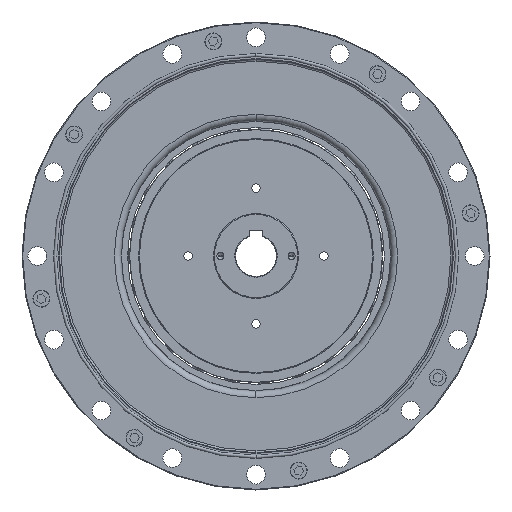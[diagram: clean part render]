
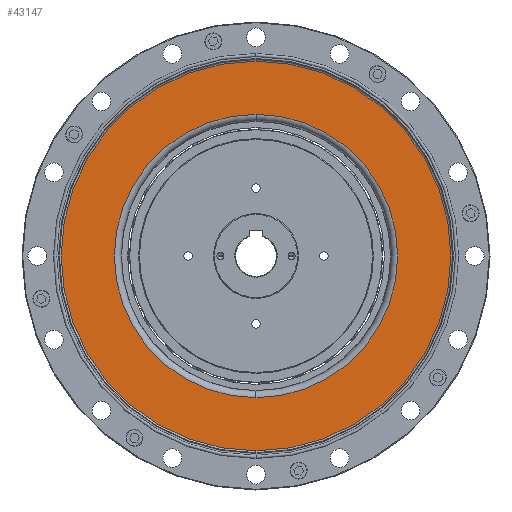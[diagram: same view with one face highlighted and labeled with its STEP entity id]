
A CAD part, left-side view. The second image highlights one B-rep face of the part: STEP entity #43147.
In plain terms, the highlighted planar face has unit normal (-1, 0, 0).
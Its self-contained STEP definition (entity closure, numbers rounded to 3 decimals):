
#13 = CARTESIAN_POINT ( 'NONE',  ( -86.21, 0., 0. ) ) ;
#439 = CIRCLE ( 'NONE', #22334, 114.899 ) ;
#2132 = CARTESIAN_POINT ( 'NONE',  ( -86.21, 0., 114.899 ) ) ;
#2998 = VERTEX_POINT ( 'NONE', #2132 ) ;
#3490 = DIRECTION ( 'NONE',  ( 0., 0., 1. ) ) ;
#4026 = CARTESIAN_POINT ( 'NONE',  ( -86.21, 0., 0. ) ) ;
#5439 = ORIENTED_EDGE ( 'NONE', *, *, #24966, .F. ) ;
#6875 = DIRECTION ( 'NONE',  ( -1., 0., 0. ) ) ;
#7510 = DIRECTION ( 'NONE',  ( 0., 0., -1. ) ) ;
#7534 = EDGE_LOOP ( 'NONE', ( #22704, #5439 ) ) ;
#7577 = CARTESIAN_POINT ( 'NONE',  ( -86.21, 0., -114.899 ) ) ;
#7917 = CIRCLE ( 'NONE', #33753, 114.899 ) ;
#11057 = CARTESIAN_POINT ( 'NONE',  ( -86.21, 0., 0. ) ) ;
#11395 = CIRCLE ( 'NONE', #22197, 83.556 ) ;
#14528 = DIRECTION ( 'NONE',  ( 0., 0., 1. ) ) ;
#16413 = EDGE_CURVE ( 'NONE', #25347, #2998, #7917, .T. ) ;
#16479 = CARTESIAN_POINT ( 'NONE',  ( -86.21, 0., -83.556 ) ) ;
#18660 = CARTESIAN_POINT ( 'NONE',  ( -86.21, 0., 0. ) ) ;
#20314 = AXIS2_PLACEMENT_3D ( 'NONE', #4026, #28293, #7510 ) ;
#20802 = CARTESIAN_POINT ( 'NONE',  ( -86.21, 0., 83.556 ) ) ;
#22162 = DIRECTION ( 'NONE',  ( 0., 0., 1. ) ) ;
#22197 = AXIS2_PLACEMENT_3D ( 'NONE', #18660, #42908, #22162 ) ;
#22334 = AXIS2_PLACEMENT_3D ( 'NONE', #11057, #35355, #14528 ) ;
#22581 = AXIS2_PLACEMENT_3D ( 'NONE', #13, #24266, #3490 ) ;
#22704 = ORIENTED_EDGE ( 'NONE', *, *, #23502, .F. ) ;
#23502 = EDGE_CURVE ( 'NONE', #41985, #44113, #24887, .T. ) ;
#23749 = ORIENTED_EDGE ( 'NONE', *, *, #38369, .T. ) ;
#24266 = DIRECTION ( 'NONE',  ( -1., 0., 0. ) ) ;
#24887 = CIRCLE ( 'NONE', #22581, 83.556 ) ;
#24966 = EDGE_CURVE ( 'NONE', #44113, #41985, #11395, .T. ) ;
#25347 = VERTEX_POINT ( 'NONE', #7577 ) ;
#25896 = FACE_BOUND ( 'NONE', #7534, .T. ) ;
#26314 = ORIENTED_EDGE ( 'NONE', *, *, #16413, .T. ) ;
#26555 = EDGE_LOOP ( 'NONE', ( #23749, #26314 ) ) ;
#27633 = CARTESIAN_POINT ( 'NONE',  ( -86.21, 0., 0. ) ) ;
#28149 = PLANE ( 'NONE',  #20314 ) ;
#28293 = DIRECTION ( 'NONE',  ( 1., 0., 0. ) ) ;
#31130 = DIRECTION ( 'NONE',  ( 0., 0., 1. ) ) ;
#33753 = AXIS2_PLACEMENT_3D ( 'NONE', #27633, #6875, #31130 ) ;
#35355 = DIRECTION ( 'NONE',  ( -1., 0., 0. ) ) ;
#38369 = EDGE_CURVE ( 'NONE', #2998, #25347, #439, .T. ) ;
#41985 = VERTEX_POINT ( 'NONE', #20802 ) ;
#42908 = DIRECTION ( 'NONE',  ( -1., 0., 0. ) ) ;
#43147 = ADVANCED_FACE ( 'NONE', ( #25896, #44269 ), #28149, .F. ) ;
#44113 = VERTEX_POINT ( 'NONE', #16479 ) ;
#44269 = FACE_OUTER_BOUND ( 'NONE', #26555, .T. ) ;
